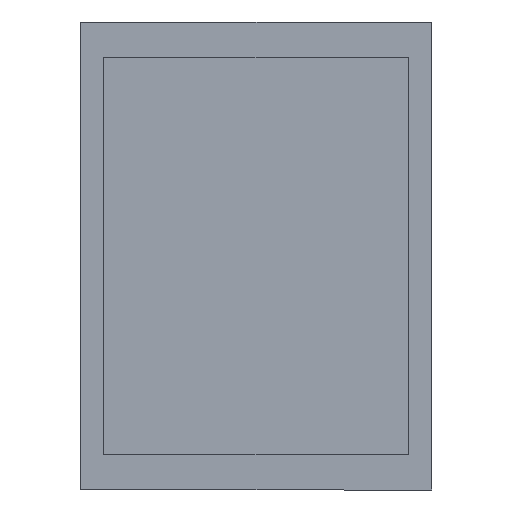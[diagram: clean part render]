
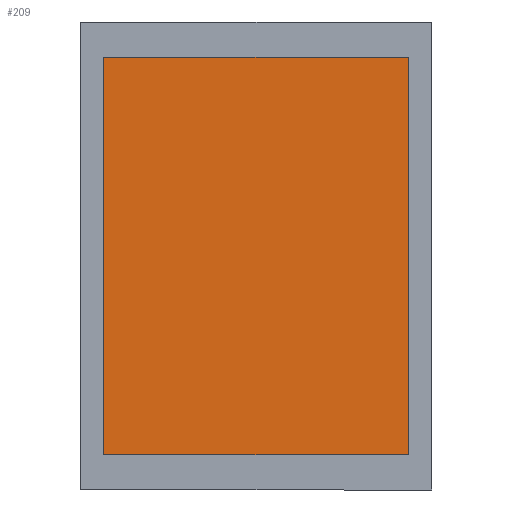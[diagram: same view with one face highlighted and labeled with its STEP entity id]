
A CAD part, left-side view. The second image highlights one B-rep face of the part: STEP entity #209.
In plain terms, the highlighted planar face has unit normal (-1, 0, 0).
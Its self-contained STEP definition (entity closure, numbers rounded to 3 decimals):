
#36 = VERTEX_POINT ( 'NONE', #147 ) ;
#37 = VERTEX_POINT ( 'NONE', #146 ) ;
#59 = EDGE_CURVE ( 'NONE', #36, #37, #88, .T. ) ;
#85 = DIRECTION ( 'NONE',  ( 0., -1., 0. ) ) ;
#86 = VECTOR ( 'NONE', #85, 1000. ) ;
#87 = CARTESIAN_POINT ( 'NONE',  ( 0., 0.65, 0.85 ) ) ;
#88 = LINE ( 'NONE', #87, #86 ) ;
#126 = EDGE_LOOP ( 'NONE', ( #217, #218, #212, #216 ) ) ;
#129 = EDGE_CURVE ( 'NONE', #240, #36, #522, .T. ) ;
#146 = CARTESIAN_POINT ( 'NONE',  ( 0., -0.65, 0.85 ) ) ;
#147 = CARTESIAN_POINT ( 'NONE',  ( 0., 0.65, 0.85 ) ) ;
#209 = ADVANCED_FACE ( 'NONE', ( #498 ), #399, .F. ) ;
#212 = ORIENTED_EDGE ( 'NONE', *, *, #238, .F. ) ;
#216 = ORIENTED_EDGE ( 'NONE', *, *, #231, .F. ) ;
#217 = ORIENTED_EDGE ( 'NONE', *, *, #59, .F. ) ;
#218 = ORIENTED_EDGE ( 'NONE', *, *, #129, .F. ) ;
#231 = EDGE_CURVE ( 'NONE', #37, #232, #416, .T. ) ;
#232 = VERTEX_POINT ( 'NONE', #412 ) ;
#238 = EDGE_CURVE ( 'NONE', #232, #240, #404, .T. ) ;
#240 = VERTEX_POINT ( 'NONE', #400 ) ;
#394 = DIRECTION ( 'NONE',  ( 0., 0., -1. ) ) ;
#395 = DIRECTION ( 'NONE',  ( 1., 0., 0. ) ) ;
#396 = CARTESIAN_POINT ( 'NONE',  ( 0., -0.65, 0.85 ) ) ;
#397 = AXIS2_PLACEMENT_3D ( 'NONE', #396, #395, #394 ) ;
#399 = PLANE ( 'NONE',  #397 ) ;
#400 = CARTESIAN_POINT ( 'NONE',  ( 0., 0.65, -0.85 ) ) ;
#401 = DIRECTION ( 'NONE',  ( 0., 1., 0. ) ) ;
#402 = VECTOR ( 'NONE', #401, 1000. ) ;
#403 = CARTESIAN_POINT ( 'NONE',  ( 0., 0.65, -0.85 ) ) ;
#404 = LINE ( 'NONE', #403, #402 ) ;
#412 = CARTESIAN_POINT ( 'NONE',  ( 0., -0.65, -0.85 ) ) ;
#413 = DIRECTION ( 'NONE',  ( 0., 0., -1. ) ) ;
#414 = VECTOR ( 'NONE', #413, 1000. ) ;
#415 = CARTESIAN_POINT ( 'NONE',  ( 0., -0.65, 0.85 ) ) ;
#416 = LINE ( 'NONE', #415, #414 ) ;
#498 = FACE_OUTER_BOUND ( 'NONE', #126, .T. ) ;
#519 = DIRECTION ( 'NONE',  ( 0., 0., 1. ) ) ;
#520 = VECTOR ( 'NONE', #519, 1000. ) ;
#521 = CARTESIAN_POINT ( 'NONE',  ( 0., 0.65, 0.85 ) ) ;
#522 = LINE ( 'NONE', #521, #520 ) ;
